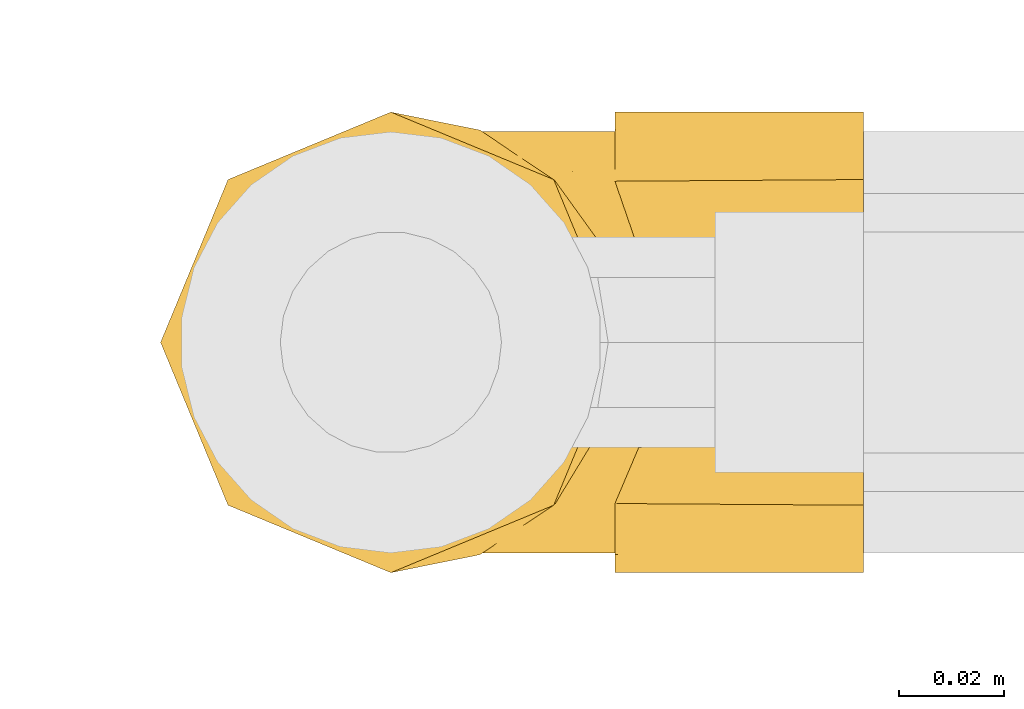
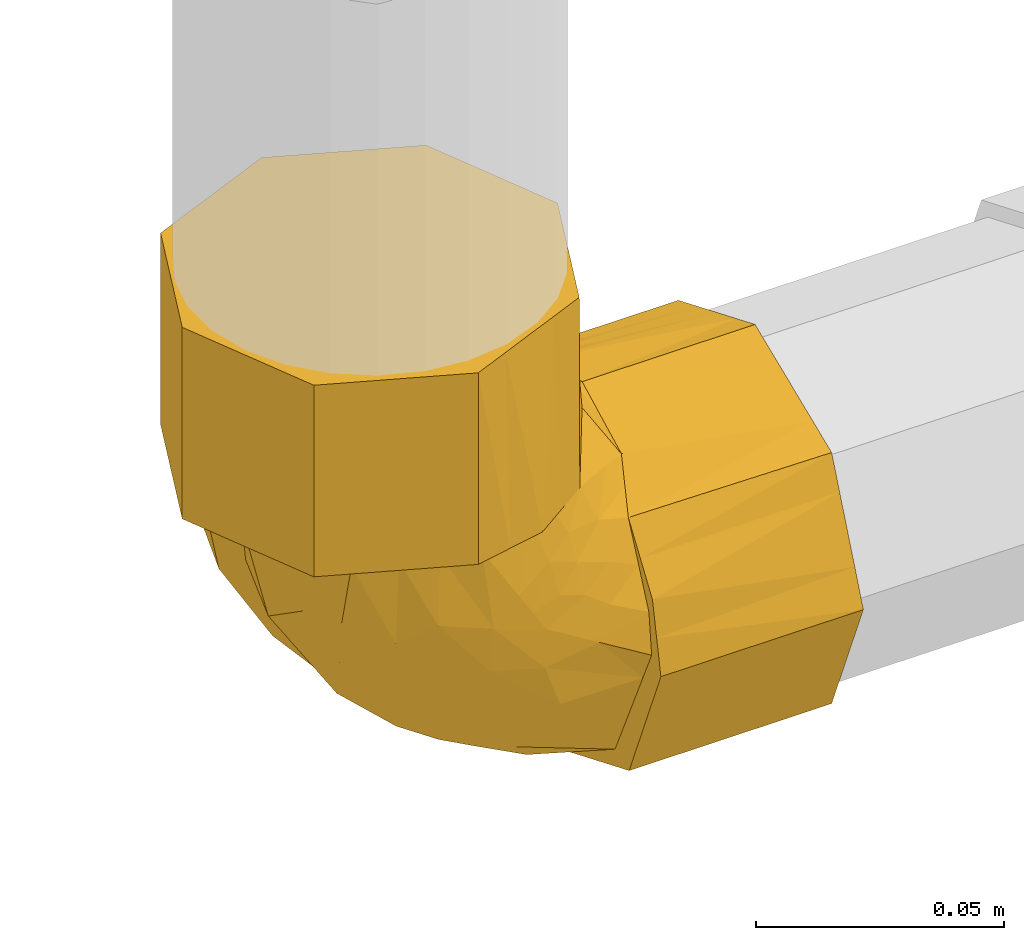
# One storey, part 278 of 652: 1 covering.
"""IFC2X3 building model written with IfcOpenShell, lengths in millimetres."""

from ifc_helpers import new_model, entity, si_unit, converted_unit, direction, frame, origin, place, context, subcontext, project, spatial, faceted_brep, material, type_object, element, save


model = new_model("IFC2X3")

# Units and contexts
model_context = context("Model", 3, precision=0.01, world=frame((0.0, 0.0, 308426.39999999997)), true_north=direction((6.123233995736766e-17, 1.0)))
plan_context = context("Plan", 3, precision=0.01, world=frame((0.0, 0.0, 308426.39999999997)), true_north=direction((6.123233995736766e-17, 1.0)))
body_context = subcontext(model_context, "Body", "Model", "MODEL_VIEW")
ifc_project = project(units=[si_unit("LENGTHUNIT", "METRE", prefix="MILLI"), si_unit("AREAUNIT", "SQUARE_METRE"), si_unit("VOLUMEUNIT", "CUBIC_METRE"), converted_unit("PLANEANGLEUNIT", "DEGREE", entity("IfcPlaneAngleMeasure", 0.017453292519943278), si_unit("PLANEANGLEUNIT", "RADIAN"), dimensions=[0, 0, 0, 0, 0, 0, 0])], contexts=[model_context, plan_context])

# Site, building, storey
site_placement = place(None, origin())
site = spatial("IfcSite", under=ifc_project, at=site_placement, Name="Default", CompositionType="ELEMENT")
building_placement = place(site_placement, origin())
building = spatial("IfcBuilding", under=site, at=building_placement, CompositionType="ELEMENT")
storey_placement = place(building_placement, frame((0.0, 0.0, 1730.6999999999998)))
storey = spatial("IfcBuildingStorey", under=building, at=storey_placement, Name="EG_Produktion_FFB", CompositionType="ELEMENT", Elevation=1730.6999999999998)

# Covering
ifc_material = material(Name="Dämmung - Armaflex-Schlauch")
covering_type = type_object("IfcCoveringType", Name="Rohrdämmung außen:Armaflex-Schlauch", PredefinedType="INSULATION")
covering_placement = place(storey_placement, frame((78684.68472776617, 78903.5453887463, 3689.7200000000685)))
element("IfcCovering", 1, at=covering_placement, inside=storey, type_object=covering_type, material=ifc_material, Name="Rohrdämmung außen:Armaflex-Schlauch", ObjectType="Rohrdämmung außen:Armaflex-Schlauch", PredefinedType="INSULATION", context=body_context, shape_type="Brep", body=[
    faceted_brep([(45.31527223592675, 89.03527223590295, -47.18000000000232), (53.79016348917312, 87.32560271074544, -47.18000000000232), (62.265054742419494, 85.61593318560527, -47.18000000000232), (69.4070792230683, 80.76173107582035, -47.18000000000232), (76.54910370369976, 75.90752896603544, -47.18000000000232), (67.43551000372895, 80.04887855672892, -47.179999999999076), (58.3219163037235, 84.19022814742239, -47.18000000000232), (48.3217638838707, 85.31527223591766, -47.18000000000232), (40.633175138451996, 81.77473258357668, -47.18000000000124), (32.944586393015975, 78.23419293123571, -47.18000000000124), (24.595238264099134, 74.38937834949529, -47.18000000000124), (16.245890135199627, 70.54456376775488, -47.18000000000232), (11.677312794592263, 57.92991800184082, -47.18000000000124), (7.108735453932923, 45.315272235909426, -47.18000000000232), (11.03642767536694, 37.43329692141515, -47.18000000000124), (14.964119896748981, 29.551321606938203, -47.18000000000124), (18.89181211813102, 21.669346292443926, -47.18000000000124), (22.819504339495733, 13.78737097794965, -47.18000000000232), (32.05670644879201, 10.718682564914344, -47.18000000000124), (40.18923516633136, 8.016977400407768, -47.180000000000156), (48.3217638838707, 5.315272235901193, -47.18000000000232), (52.07968978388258, 6.153990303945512, -47.180000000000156), (55.837615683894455, 6.9927083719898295, -47.179999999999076), (61.84796091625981, 8.33413587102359, -47.179999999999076), (67.85830614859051, 9.675563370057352, -47.18000000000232), (76.54910370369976, 14.723015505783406, -47.18000000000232), (69.4070792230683, 9.868813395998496, -47.18000000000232), (62.265054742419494, 5.014611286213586, -47.18000000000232), (53.79016348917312, 3.3049417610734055, -47.18000000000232), (45.31527223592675, 1.5952722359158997, -47.18000000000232), (36.91076329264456, 5.076533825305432, -47.18000000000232), (29.857917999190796, 7.997917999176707, -47.18000000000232), (22.129240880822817, 11.19924088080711, -47.18000000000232), (14.400563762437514, 14.400563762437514, -47.18000000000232), (11.199240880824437, 22.129240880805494, -47.18000000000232), (7.9979179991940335, 29.85791799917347, -47.18000000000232), (5.076533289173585, 36.910764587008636, -47.18000000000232), (1.5952722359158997, 45.315272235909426, -47.18000000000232), (5.076533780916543, 53.71978107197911, -47.18000000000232), (7.9979179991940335, 60.772626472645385, -47.18000000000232), (11.199240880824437, 68.50130359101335, -47.18000000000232), (14.400563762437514, 76.22998070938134, -47.18000000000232), (22.129240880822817, 79.43130359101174, -47.18000000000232), (29.857917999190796, 82.63262647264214, -47.18000000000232), (36.910764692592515, 85.55401122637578, -47.1800000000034), (76.22998070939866, 14.400563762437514, 0.0), (79.43130359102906, 22.129240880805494, 0.0), (82.63262647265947, 29.85791799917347, 0.0), (85.83394935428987, 37.58659511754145, 0.0), (89.03527223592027, 45.315272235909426, 0.0), (85.55401125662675, 53.719779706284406, 0.0), (82.63262647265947, 60.772626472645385, 0.0), (79.43130359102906, 68.50130359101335, 0.0), (76.22998070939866, 76.22998070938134, 0.0), (68.50130359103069, 79.43130359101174, 0.0), (60.77262647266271, 82.63262647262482, 0.0), (53.04394935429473, 85.83394935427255, 0.0), (45.31527223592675, 89.03527223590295, 0.0), (37.58659511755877, 85.83394935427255, 0.0), (29.857917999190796, 82.63262647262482, 0.0), (22.129240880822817, 79.43130359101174, 0.0), (14.400563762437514, 76.22998070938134, 0.0), (11.199240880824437, 68.50130359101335, 0.0), (7.9979179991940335, 60.772626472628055, 0.0), (4.796595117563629, 53.0439493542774, 0.0), (1.5952722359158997, 45.315272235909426, 0.0), (4.796595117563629, 37.58659511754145, 0.0), (7.9979179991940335, 29.85791799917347, 0.0), (11.199240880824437, 22.129240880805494, 0.0), (14.400563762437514, 14.400563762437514, 0.0), (21.453408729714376, 11.479179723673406, 0.0), (28.50625369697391, 8.557795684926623, 0.0), (36.91076296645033, 5.076533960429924, 0.0), (45.31527223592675, 1.5952722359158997, 0.0), (53.71977982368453, 5.0765332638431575, 0.0), (60.77262647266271, 7.997917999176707, 0.0), (68.50130359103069, 11.19924088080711, 0.0), (89.03527223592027, 45.315272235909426, -40.28038015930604), (86.84897286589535, 31.66279583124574, -41.33169831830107), (81.69903828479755, 23.192905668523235, -44.25584915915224), (86.62452082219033, 55.29456727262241, -41.46955853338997), (84.21376940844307, 65.27386230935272, -42.65873690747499), (80.38143655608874, 70.59069563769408, -44.91936845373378), (87.85527223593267, 89.03527223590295, -89.720000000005), (87.85527223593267, 85.554010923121, -98.12450827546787), (87.85527223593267, 82.63262647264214, -105.17735423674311), (87.85527223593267, 79.43130359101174, -112.9060313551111), (87.85527223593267, 76.22998070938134, -120.63470847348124), (87.85527223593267, 68.50130359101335, -123.83603135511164), (87.85527223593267, 60.772626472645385, -127.03735423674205), (87.85527223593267, 53.71977974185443, -129.95873900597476), (87.85527223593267, 45.315272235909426, -133.44000000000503), (87.85527223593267, 36.91076358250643, -129.95873853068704), (87.85527223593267, 29.85791799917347, -127.03735423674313), (87.85527223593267, 22.129240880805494, -123.83603135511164), (87.85527223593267, 14.400563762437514, -120.63470847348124), (87.85527223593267, 11.19924088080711, -112.90603135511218), (87.85527223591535, 7.997917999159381, -105.17735423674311), (87.85527223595, 5.076533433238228, -98.12450799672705), (87.85527223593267, 1.5952722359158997, -89.720000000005), (87.85527223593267, 3.3049417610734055, -81.24510874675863), (87.85527223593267, 5.014611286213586, -72.77021749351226), (87.85527223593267, 9.868813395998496, -65.62819301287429), (87.85527223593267, 14.72301550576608, -58.48616853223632), (87.85527223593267, 10.581665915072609, -67.59976223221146), (87.85527223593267, 6.440316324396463, -76.71335593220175), (87.85527223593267, 5.315272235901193, -86.71350835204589), (87.85527223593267, 8.855811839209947, -94.40209699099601), (87.85527223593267, 12.396351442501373, -102.09068562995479), (87.85527223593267, 16.24116607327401, -110.44003386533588), (87.85527223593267, 20.085980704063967, -118.78938210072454), (87.85527223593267, 32.70062646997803, -123.35795944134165), (87.85527223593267, 45.315272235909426, -127.92653678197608), (87.85527223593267, 52.96606301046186, -124.11404686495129), (87.85527223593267, 60.61685378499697, -120.30155694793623), (87.85527223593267, 68.73001363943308, -116.25866242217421), (87.85527223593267, 76.8431734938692, -112.21576789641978), (87.85527223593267, 79.91186200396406, -102.97856549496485), (87.85527223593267, 82.61356711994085, -94.84603692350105), (87.85527223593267, 85.31527223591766, -86.7135083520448), (87.85527223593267, 84.47655407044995, -82.9555820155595), (87.85527223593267, 83.63783590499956, -79.19765567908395), (87.85527223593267, 82.29640850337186, -73.18731088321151), (87.85527223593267, 80.9549811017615, -67.17696608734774), (87.85527223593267, 75.90752896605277, -58.48616853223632), (87.85527223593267, 80.76173107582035, -65.62819301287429), (87.85527223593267, 85.61593318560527, -72.77021749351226), (87.85527223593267, 87.32560271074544, -81.24510874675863), (135.03527223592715, 4.796595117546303, -97.44867711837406), (135.03527223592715, 7.997917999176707, -105.17735423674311), (135.03527223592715, 11.19924088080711, -112.90603135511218), (135.03527223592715, 14.400563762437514, -120.63470847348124), (135.03527223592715, 21.45340882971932, -123.5560925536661), (135.03527223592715, 28.506253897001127, -126.47747663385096), (135.03527223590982, 36.910763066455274, -129.958738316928), (135.03527223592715, 45.315272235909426, -133.44000000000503), (135.03527223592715, 53.0439493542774, -130.23867711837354), (135.03527223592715, 60.772626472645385, -127.03735423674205), (135.03527223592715, 68.50130359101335, -123.83603135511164), (135.03527223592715, 76.22998070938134, -120.63470847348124), (135.03527223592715, 79.15136521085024, -113.58186238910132), (135.03527223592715, 82.07274971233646, -106.52901630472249), (135.03527223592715, 85.55401097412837, -98.1245081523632), (135.03527223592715, 89.03527223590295, -89.720000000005), (135.03527223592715, 85.55401125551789, -81.31549252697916), (135.03527223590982, 82.63262647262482, -74.26264576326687), (135.03527223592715, 79.43130359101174, -66.53396864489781), (135.03527223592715, 76.22998070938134, -58.805291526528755), (135.03527223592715, 68.50130359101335, -55.603968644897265), (135.03527223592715, 60.772626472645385, -52.40264576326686), (135.03527223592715, 53.0439493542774, -49.20132288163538), (135.03527223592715, 45.315272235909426, -46.0), (135.03527223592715, 36.910764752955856, -49.48126098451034), (135.03527223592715, 29.85791799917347, -52.40264576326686), (135.03527223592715, 22.129240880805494, -55.60396864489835), (135.03527223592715, 14.400563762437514, -58.805291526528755), (135.03527223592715, 11.19924088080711, -66.53396864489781), (135.03527223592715, 7.997917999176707, -74.26264576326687), (135.03527223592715, 5.076533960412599, -81.3154907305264), (135.03527223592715, 1.5952722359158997, -89.720000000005), (93.56571370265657, 35.33597719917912, -48.41075141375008), (94.75489207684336, 45.315272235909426, -46.0), (92.37653532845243, 25.356682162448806, -50.82150282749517), (90.11590378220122, 20.039848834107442, -54.65383567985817), (93.70357391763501, 58.96774864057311, -48.186299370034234), (90.7794230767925, 67.43763880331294, -53.33623395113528), (32.54265070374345, 12.764668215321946, -69.00398703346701), (51.42928359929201, 7.785872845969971, -79.26910311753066), (39.73108312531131, 8.104982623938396, -64.28083873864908), (63.42773519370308, 6.007022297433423, -81.73107569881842), (75.59759657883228, 5.315272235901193, -79.20442983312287), (73.80742095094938, 5.315272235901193, -78.10776438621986), (68.57367093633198, 5.315272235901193, -74.90155785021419), (63.339920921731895, 5.315272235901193, -71.6953513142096), (51.36605693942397, 5.864313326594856, -67.73559181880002), (17.630996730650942, 24.578220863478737, -62.90914025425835), (23.177365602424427, 18.409126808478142, -64.29367597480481), (64.17997612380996, 18.91974193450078, -109.22554710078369), (67.51314169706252, 12.401297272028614, -102.70311048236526), (51.24294252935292, 27.82104943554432, -108.27850507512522), (70.50737075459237, 25.71861098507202, -117.47651375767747), (44.60323784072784, 14.905828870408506, -89.70611796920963), (32.37339901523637, 17.6070351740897, -79.39119784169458), (40.16518469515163, 22.306000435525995, -94.79312059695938), (54.501993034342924, 10.642924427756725, -90.62231442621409), (16.362071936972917, 45.3152722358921, -62.39077147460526), (15.721031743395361, 35.03711460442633, -69.82106388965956), (46.00045172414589, 35.87780622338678, -108.04868616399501), (62.88363947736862, 35.33321956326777, -118.29916246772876), (68.05804006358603, 7.9767390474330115, -93.3996173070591), (25.713963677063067, 23.669456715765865, -77.92716293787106), (31.72018468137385, 35.14732952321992, -94.51239127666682), (31.732403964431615, 28.005805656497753, -90.48949943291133), (44.12208138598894, 45.315272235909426, -108.02308589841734), (69.82443573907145, 45.315272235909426, -119.72050695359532), (25.61540841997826, 45.315272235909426, -77.60154294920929), (34.8687449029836, 45.315272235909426, -92.8123144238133), (80.83134659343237, 5.315272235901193, -82.41063636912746), (60.13371407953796, 5.315272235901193, -66.46160079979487), (56.927507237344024, 5.315272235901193, -61.22785028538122), (52.62463556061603, 5.315272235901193, -54.20392514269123), (50.47319972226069, 5.315272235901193, -50.69196257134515), (78.77641040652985, 6.515026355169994, -71.72947387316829), (72.99735377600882, 6.52360473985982, -67.36010628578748), (64.92960904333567, 6.838807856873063, -56.52012715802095), (66.80037174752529, 5.95142486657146, -65.04087912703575), (72.0409367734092, 8.011933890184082, -59.90607442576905), (80.24278960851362, 9.284155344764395, -63.431363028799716), (91.62419216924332, 45.315272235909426, -43.4110800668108), (86.20019924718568, 21.350681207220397, -49.26110762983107), (79.89085022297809, 12.878665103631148, -55.14442212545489), (70.89843278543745, 9.509001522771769, -53.03286107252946), (75.12919765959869, 82.61861054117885, -62.994335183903), (71.60390875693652, 81.34638912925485, -54.79248203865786), (79.89084929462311, 77.75188031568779, -55.14442305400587), (56.92750723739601, 85.31527223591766, -61.22785028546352), (55.83084240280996, 85.31527223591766, -59.437675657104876), (52.62463556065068, 85.31527223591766, -54.20392514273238), (85.77416463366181, 69.27986274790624, -48.83507246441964), (82.00241115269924, 81.1215425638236, -64.13683850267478), (78.51514579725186, 83.79173653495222, -70.10566333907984), (67.67516617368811, 84.10693976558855, -62.037918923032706), (69.99439375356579, 84.67911968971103, -68.23490171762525), (63.339920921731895, 85.31527223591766, -71.6953513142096), (63.30579864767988, 84.11551813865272, -56.25886243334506), (60.13371407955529, 85.31527223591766, -66.46160079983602), (84.34330941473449, 85.31527223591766, -84.5620723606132), (80.83134659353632, 85.31527223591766, -82.41063636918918), (73.80742095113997, 85.31527223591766, -78.1077643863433), (68.57367093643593, 85.31527223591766, -74.901557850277), (70.51865502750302, 71.91409724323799, -112.06272967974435), (72.14354849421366, 65.71218477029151, -117.62981658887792), (57.146839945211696, 66.83340013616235, -109.44097839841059), (41.3732413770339, 58.71549396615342, -102.73486486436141), (40.15392129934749, 67.03603928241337, -96.0064006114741), (15.362731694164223, 54.35919340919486, -69.77574080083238), (62.15626531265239, 56.778590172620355, -117.47983892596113), (53.30419603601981, 84.62352215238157, -71.60753660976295), (41.63422557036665, 82.65281657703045, -66.97986259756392), (55.76616792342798, 82.84467155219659, -83.60598780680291), (44.4156580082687, 79.98754021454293, -80.53671556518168), (70.75443260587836, 82.52556187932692, -95.30418854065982), (67.29968029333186, 84.76623113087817, -83.66921531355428), (45.32915177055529, 75.72471529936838, -90.43203242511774), (66.03128380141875, 77.86587628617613, -102.49262071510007), (55.65510988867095, 72.96044433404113, -102.74278789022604), (26.255526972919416, 71.96834918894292, -71.2090381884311), (32.06723242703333, 78.28376597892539, -66.84410548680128), (26.49098852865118, 62.671083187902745, -83.5257488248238), (16.58661171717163, 63.12603991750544, -64.64552317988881), (27.44243292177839, 53.60445762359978, -90.05399086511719)], [[[0, 1, 2, 3, 4, 5, 6, 7, 8, 9, 10, 11, 12, 13, 14, 15, 16, 17, 18, 19, 20, 21, 22, 23, 24, 25, 26, 27, 28, 29, 30, 31, 32, 33, 34, 35, 36, 37, 38, 39, 40, 41, 42, 43, 44]], [[45, 46, 47, 48, 49, 50, 51, 52, 53, 54, 55, 56, 57, 58, 59, 60, 61, 62, 63, 64, 65, 66, 67, 68, 69, 70, 71, 72, 73, 74, 75, 76]], [[74, 27, 76, 75]], [[77, 48, 78]], [[78, 47, 79]], [[48, 77, 49]], [[25, 79, 46]], [[27, 74, 28]], [[45, 26, 25]], [[48, 47, 78]], [[73, 28, 74]], [[73, 29, 28]], [[76, 27, 26]], [[26, 45, 76]], [[25, 46, 45]], [[79, 47, 46]], [[30, 29, 73, 72, 71, 70, 69, 33, 32, 31]], [[33, 69, 68, 67, 66, 65, 37, 36, 35, 34]], [[0, 44, 43, 42, 41, 61, 60, 59, 58, 57]], [[63, 62, 61, 41, 40, 39, 38, 37, 65, 64]], [[3, 54, 53]], [[57, 56, 0]], [[80, 51, 50]], [[55, 2, 1]], [[55, 54, 2]], [[52, 81, 82, 4]], [[50, 77, 80]], [[2, 54, 3]], [[1, 56, 55]], [[53, 4, 3]], [[51, 80, 81]], [[0, 56, 1]], [[50, 49, 77]], [[52, 4, 53]], [[52, 51, 81]], [[83, 84, 85, 86, 87, 88, 89, 90, 91, 92, 93, 94, 95, 96, 97, 98, 99, 100, 101, 102, 103, 104, 105, 106, 107, 108, 109, 110, 111, 112, 113, 114, 115, 116, 117, 118, 119, 120, 121, 122, 123, 124, 125, 126, 127]], [[128, 129, 130, 131, 132, 133, 134, 135, 136, 137, 138, 139, 140, 141, 142, 143, 144, 145, 146, 147, 148, 149, 150, 151, 152, 153, 154, 155, 156, 157, 158, 159]], [[133, 132, 131, 95, 94, 93, 92, 91, 135, 134]], [[95, 131, 130, 129, 128, 159, 99, 98, 97, 96]], [[102, 156, 155]], [[160, 153, 152]], [[99, 159, 100]], [[157, 156, 101, 158]], [[158, 101, 100]], [[152, 161, 160]], [[101, 156, 102]], [[154, 162, 163, 103]], [[155, 103, 102]], [[153, 160, 162]], [[159, 158, 100]], [[152, 151, 161]], [[154, 103, 155]], [[154, 153, 162]], [[125, 147, 146]], [[143, 83, 127]], [[161, 150, 164]], [[164, 149, 165]], [[150, 161, 151]], [[147, 125, 124]], [[126, 144, 127]], [[146, 145, 144, 126]], [[124, 148, 147]], [[143, 127, 144]], [[150, 149, 164]], [[146, 126, 125]], [[124, 165, 148]], [[165, 149, 148]], [[84, 83, 143, 142, 141, 140, 139, 87, 86, 85]], [[87, 139, 138, 137, 136, 135, 91, 90, 89, 88]], [[166, 167, 168]], [[169, 170, 171, 172, 173]], [[19, 168, 174]], [[17, 166, 18]], [[175, 176, 16]], [[177, 109, 178]], [[179, 180, 177]], [[181, 182, 183]], [[166, 181, 184]], [[14, 185, 186]], [[187, 188, 179]], [[184, 189, 167]], [[182, 181, 166]], [[176, 175, 190]], [[186, 191, 192]], [[166, 184, 167]], [[169, 174, 167]], [[188, 193, 194]], [[110, 109, 177]], [[190, 175, 186]], [[175, 16, 15]], [[186, 175, 15]], [[176, 190, 182]], [[186, 15, 14]], [[186, 195, 191]], [[196, 193, 187]], [[179, 183, 192]], [[184, 178, 189]], [[191, 195, 196]], [[178, 109, 108]], [[183, 177, 181]], [[178, 108, 189]], [[181, 177, 178]], [[189, 108, 107]], [[107, 106, 197, 170]], [[170, 169, 107]], [[169, 173, 174]], [[167, 189, 169]], [[107, 169, 189]], [[174, 173, 198, 199, 200, 201, 20]], [[174, 20, 19]], [[168, 19, 18]], [[166, 168, 18]], [[174, 168, 167]], [[111, 180, 188]], [[110, 177, 180]], [[194, 112, 111]], [[178, 184, 181]], [[188, 180, 179]], [[111, 110, 180]], [[179, 191, 187]], [[111, 188, 194]], [[187, 191, 196]], [[193, 188, 187]], [[192, 183, 190]], [[177, 183, 179]], [[166, 17, 176]], [[183, 182, 190]], [[166, 176, 182]], [[17, 16, 176]], [[185, 14, 13]], [[185, 195, 186]], [[186, 192, 190]], [[179, 192, 191]], [[172, 202, 203]], [[204, 205, 206]], [[23, 22, 21, 20, 201, 200, 199]], [[202, 104, 207]], [[208, 77, 78]], [[203, 173, 172]], [[203, 202, 207]], [[105, 104, 202]], [[163, 162, 209]], [[203, 205, 173]], [[197, 106, 105, 171, 170]], [[207, 206, 203]], [[210, 207, 103]], [[104, 103, 207]], [[160, 161, 208]], [[210, 163, 209]], [[206, 207, 210]], [[210, 25, 211]], [[204, 211, 24]], [[209, 25, 210]], [[78, 79, 25, 209]], [[105, 202, 171]], [[210, 103, 163]], [[78, 209, 162]], [[205, 203, 206]], [[172, 171, 202]], [[206, 211, 204]], [[204, 198, 205]], [[204, 24, 23]], [[210, 211, 206]], [[199, 204, 23]], [[198, 204, 199]], [[198, 173, 205]], [[25, 24, 211]], [[78, 160, 208]], [[78, 162, 160]], [[212, 213, 214]], [[6, 215, 216, 217, 7]], [[82, 218, 214]], [[219, 123, 220]], [[214, 213, 4]], [[5, 4, 213]], [[221, 222, 223]], [[208, 80, 77]], [[218, 124, 214]], [[161, 164, 208]], [[214, 124, 219]], [[6, 5, 224]], [[82, 81, 218]], [[224, 5, 213]], [[225, 224, 221]], [[220, 222, 212]], [[122, 121, 120, 119, 226, 227, 228]], [[164, 165, 124, 218]], [[221, 223, 225]], [[213, 212, 221]], [[221, 224, 213]], [[6, 224, 215]], [[214, 4, 82]], [[164, 218, 81]], [[222, 221, 212]], [[225, 215, 224]], [[212, 219, 220]], [[220, 229, 222]], [[220, 123, 122]], [[214, 219, 212]], [[228, 220, 122]], [[229, 220, 228]], [[229, 223, 222]], [[124, 123, 219]], [[164, 80, 208]], [[164, 81, 80]], [[230, 115, 231]], [[232, 233, 234]], [[12, 235, 13]], [[113, 194, 236]], [[237, 216, 215, 225, 223]], [[236, 232, 231]], [[238, 239, 240]], [[230, 231, 232]], [[118, 241, 242]], [[243, 244, 245]], [[246, 10, 247]], [[116, 244, 117]], [[244, 243, 240]], [[244, 239, 241]], [[248, 249, 246]], [[247, 238, 240]], [[237, 242, 239]], [[232, 236, 233]], [[250, 193, 196, 195]], [[113, 236, 114]], [[233, 248, 234]], [[113, 112, 194]], [[193, 236, 194]], [[236, 193, 233]], [[233, 250, 248]], [[231, 115, 114]], [[248, 250, 235]], [[248, 235, 249]], [[235, 250, 195]], [[235, 195, 185, 13]], [[235, 12, 249]], [[12, 11, 249]], [[246, 249, 11]], [[10, 9, 247]], [[234, 246, 243]], [[246, 234, 248]], [[245, 234, 243]], [[246, 11, 10]], [[247, 9, 238]], [[243, 246, 247]], [[238, 9, 8]], [[8, 7, 217, 216]], [[216, 237, 8]], [[237, 223, 242]], [[239, 238, 237]], [[8, 237, 238]], [[242, 223, 229, 228, 227, 226, 119]], [[242, 119, 118]], [[241, 118, 117]], [[244, 241, 117]], [[242, 241, 239]], [[244, 240, 239]], [[247, 240, 243]], [[193, 250, 233]], [[236, 231, 114]], [[230, 232, 245]], [[244, 116, 230]], [[234, 245, 232]], [[244, 230, 245]], [[116, 115, 230]]]),
])

save(model, "model.ifc")
